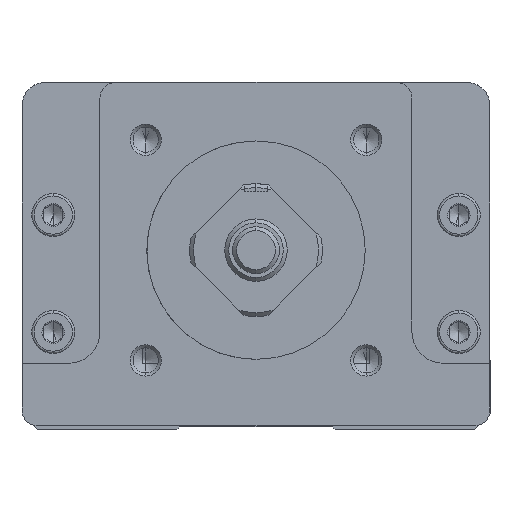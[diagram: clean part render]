
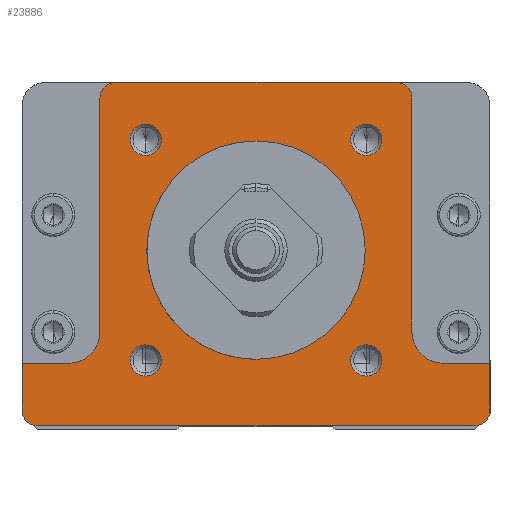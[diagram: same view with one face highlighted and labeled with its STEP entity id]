
A CAD part, left-side view. The second image highlights one B-rep face of the part: STEP entity #23886.
In plain terms, the highlighted planar face has unit normal (-1, 0, 0).
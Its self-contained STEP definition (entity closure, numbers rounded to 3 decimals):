
#22724=CARTESIAN_POINT('POINT1221',(-59.,-28.,-22.5));
#22725=VERTEX_POINT('VERTEX1221',#22724);
#22726=CARTESIAN_POINT('POINT1222',(-59.,28.,
   -22.5));
#22727=VERTEX_POINT('VERTEX1222',#22726);
#22728=CARTESIAN_POINT('POS1889',(-59.,28.,-22.5));
#22729=DIRECTION('DIR2733',(0.,1.,0.));
#22730=VECTOR('VEC1045',#22729,1.);
#22731=LINE('STRAIGHT1045',#22728,#22730);
#22732=EDGE_CURVE('EDGE1919',#22725,#22727,#22731,.T.);
#22755=CARTESIAN_POINT('POINT1223',(-59.,-14.142,
   12.142));
#22756=VERTEX_POINT('VERTEX1223',#22755);
#22763=CARTESIAN_POINT('POINT1224',(-59.,-14.142,
   16.142));
#22764=VERTEX_POINT('VERTEX1224',#22763);
#22765=CARTESIAN_POINT('POS1894',(-59.,-14.142,
   14.142));
#22766=DIRECTION('DIR2739',(1.,0.,0.));
#22767=DIRECTION('DIR2740',(0.,0.,-1.));
#22768=AXIS2_PLACEMENT_3D('AXIS846',#22765,#22766,#22767);
#22769=CIRCLE('ELLIPSE316',#22768,2.);
#22770=EDGE_CURVE('EDGE1923',#22764,#22756,#22769,.T.);
#22790=EDGE_CURVE('EDGE1925',#22756,#22764,#22769,.T.);
#22795=CARTESIAN_POINT('POINT1225',(-59.,14.142,
   12.142));
#22796=VERTEX_POINT('VERTEX1225',#22795);
#22803=CARTESIAN_POINT('POINT1226',(-59.,14.142,
   16.142));
#22804=VERTEX_POINT('VERTEX1226',#22803);
#22805=CARTESIAN_POINT('POS1898',(-59.,14.142,
   14.142));
#22806=DIRECTION('DIR2745',(1.,0.,0.));
#22807=DIRECTION('DIR2746',(0.,0.,-1.));
#22808=AXIS2_PLACEMENT_3D('AXIS848',#22805,#22806,#22807);
#22809=CIRCLE('ELLIPSE317',#22808,2.);
#22810=EDGE_CURVE('EDGE1927',#22804,#22796,#22809,.T.);
#22830=EDGE_CURVE('EDGE1929',#22796,#22804,#22809,.T.);
#22835=CARTESIAN_POINT('POINT1227',(-59.,-14.142,
   -16.142));
#22836=VERTEX_POINT('VERTEX1227',#22835);
#22843=CARTESIAN_POINT('POINT1228',(-59.,-14.142,
   -12.142));
#22844=VERTEX_POINT('VERTEX1228',#22843);
#22845=CARTESIAN_POINT('POS1902',(-59.,-14.142,
   -14.142));
#22846=DIRECTION('DIR2751',(1.,0.,0.));
#22847=DIRECTION('DIR2752',(0.,0.,-1.));
#22848=AXIS2_PLACEMENT_3D('AXIS850',#22845,#22846,#22847);
#22849=CIRCLE('ELLIPSE318',#22848,2.);
#22850=EDGE_CURVE('EDGE1931',#22844,#22836,#22849,.T.);
#22870=EDGE_CURVE('EDGE1933',#22836,#22844,#22849,.T.);
#22875=CARTESIAN_POINT('POINT1229',(-59.,14.142,
   -16.142));
#22876=VERTEX_POINT('VERTEX1229',#22875);
#22883=CARTESIAN_POINT('POINT1230',(-59.,14.142,
   -12.142));
#22884=VERTEX_POINT('VERTEX1230',#22883);
#22885=CARTESIAN_POINT('POS1906',(-59.,14.142,
   -14.142));
#22886=DIRECTION('DIR2757',(1.,0.,0.));
#22887=DIRECTION('DIR2758',(0.,0.,-1.));
#22888=AXIS2_PLACEMENT_3D('AXIS852',#22885,#22886,#22887);
#22889=CIRCLE('ELLIPSE319',#22888,2.);
#22890=EDGE_CURVE('EDGE1935',#22884,#22876,#22889,.T.);
#22910=EDGE_CURVE('EDGE1937',#22876,#22884,#22889,.T.);
#23001=CARTESIAN_POINT('POINT1241',(-59.,18.,21.5));
#23002=VERTEX_POINT('VERTEX1241',#23001);
#23009=CARTESIAN_POINT('POINT1242',(-59.,-18.,
   21.5));
#23010=VERTEX_POINT('VERTEX1242',#23009);
#23011=CARTESIAN_POINT('POS1920',(-59.,-18.,21.5));
#23012=DIRECTION('DIR2778',(0.,-1.,0.));
#23013=VECTOR('VEC1062',#23012,1.);
#23014=LINE('STRAIGHT1062',#23011,#23013);
#23015=EDGE_CURVE('EDGE1948',#23002,#23010,#23014,.T.);
#23033=CARTESIAN_POINT('POINT1244',(-59.,0.,-14.));
#23034=VERTEX_POINT('VERTEX1244',#23033);
#23041=CARTESIAN_POINT('POINT1245',(-59.,0.,
   14.));
#23042=VERTEX_POINT('VERTEX1245',#23041);
#23043=CARTESIAN_POINT('POS1924',(-59.,0.,0.));
#23044=DIRECTION('DIR2783',(1.,0.,0.));
#23045=DIRECTION('DIR2784',(0.,0.,-1.));
#23046=AXIS2_PLACEMENT_3D('AXIS860',#23043,#23044,#23045);
#23047=CIRCLE('ELLIPSE324',#23046,14.);
#23048=EDGE_CURVE('EDGE1951',#23042,#23034,#23047,.T.);
#23081=EDGE_CURVE('EDGE1956',#23034,#23042,#23047,.T.);
#23475=CARTESIAN_POINT('POINT1269',(-59.,20.,
   19.5));
#23476=VERTEX_POINT('VERTEX1269',#23475);
#23483=CARTESIAN_POINT('POS1973',(-59.,18.,
   19.5));
#23484=DIRECTION('DIR2865',(1.,0.,0.));
#23485=DIRECTION('DIR2866',(0.,0.,1.));
#23486=AXIS2_PLACEMENT_3D('AXIS893',#23483,#23484,#23485);
#23487=CIRCLE('ELLIPSE346',#23486,2.);
#23488=EDGE_CURVE('EDGE1993',#23476,#23002,#23487,.T.);
#23512=CARTESIAN_POINT('POINT1271',(-59.,30.,-20.5));
#23513=VERTEX_POINT('VERTEX1271',#23512);
#23514=CARTESIAN_POINT('POS1976',(-59.,28.,
   -20.5));
#23515=DIRECTION('DIR2871',(1.,0.,0.));
#23516=DIRECTION('DIR2872',(0.,1.,0.));
#23517=AXIS2_PLACEMENT_3D('AXIS896',#23514,#23515,#23516);
#23518=CIRCLE('ELLIPSE348',#23517,2.);
#23519=EDGE_CURVE('EDGE1995',#22727,#23513,#23518,.T.);
#23730=CARTESIAN_POINT('POINT1282',(-59.,-30.,
   -20.5));
#23731=VERTEX_POINT('VERTEX1282',#23730);
#23738=CARTESIAN_POINT('POS1997',(-59.,-28.,
   -20.5));
#23739=DIRECTION('DIR2903',(1.,0.,0.));
#23740=DIRECTION('DIR2904',(0.,0.,-1.));
#23741=AXIS2_PLACEMENT_3D('AXIS907',#23738,#23739,#23740);
#23742=CIRCLE('ELLIPSE355',#23741,2.);
#23743=EDGE_CURVE('EDGE2014',#23731,#22725,#23742,.T.);
#23783=ORIENTED_EDGE('COEDGE3972',*,*,#22910,.T.);
#23784=ORIENTED_EDGE('COEDGE3973',*,*,#22890,.T.);
#23785=EDGE_LOOP('NONE',(#23783,#23784));
#23786=FACE_BOUND('LOOP1',#23785,.T.);
#23787=ORIENTED_EDGE('COEDGE3974',*,*,#22870,.T.);
#23788=ORIENTED_EDGE('COEDGE3975',*,*,#22850,.T.);
#23789=EDGE_LOOP('NONE',(#23787,#23788));
#23790=FACE_BOUND('LOOP1',#23789,.T.);
#23791=ORIENTED_EDGE('COEDGE3976',*,*,#22830,.T.);
#23792=ORIENTED_EDGE('COEDGE3977',*,*,#22810,.T.);
#23793=EDGE_LOOP('NONE',(#23791,#23792));
#23794=FACE_BOUND('LOOP1',#23793,.T.);
#23795=ORIENTED_EDGE('COEDGE3978',*,*,#22790,.T.);
#23796=ORIENTED_EDGE('COEDGE3979',*,*,#22770,.T.);
#23797=EDGE_LOOP('NONE',(#23795,#23796));
#23798=FACE_BOUND('LOOP1',#23797,.T.);
#23799=ORIENTED_EDGE('COEDGE3980',*,*,#23081,.T.);
#23800=ORIENTED_EDGE('COEDGE3981',*,*,#23048,.T.);
#23801=EDGE_LOOP('NONE',(#23799,#23800));
#23802=FACE_BOUND('LOOP1',#23801,.T.);
#23803=ORIENTED_EDGE('COEDGE3982',*,*,#22732,.F.);
#23804=ORIENTED_EDGE('COEDGE3983',*,*,#23743,.F.);
#23805=CARTESIAN_POINT('POINT1284',(-59.,-30.,-14.5));
#23806=VERTEX_POINT('VERTEX1284',#23805);
#23807=CARTESIAN_POINT('POS2002',(-59.,-30.,-20.5));
#23808=DIRECTION('DIR2912',(0.,0.,-1.));
#23809=VECTOR('VEC1092',#23808,1.);
#23810=LINE('STRAIGHT1092',#23807,#23809);
#23811=EDGE_CURVE('EDGE2017',#23806,#23731,#23810,.T.);
#23812=ORIENTED_EDGE('COEDGE3984',*,*,#23811,.F.);
#23813=CARTESIAN_POINT('POINT1285',(-59.,-24.,-14.5));
#23814=VERTEX_POINT('VERTEX1285',#23813);
#23815=CARTESIAN_POINT('POS2003',(-59.,-30.,-14.5));
#23816=DIRECTION('DIR2913',(0.,-1.,0.));
#23817=VECTOR('VEC1093',#23816,1.);
#23818=LINE('STRAIGHT1093',#23815,#23817);
#23819=EDGE_CURVE('EDGE2018',#23814,#23806,#23818,.T.);
#23820=ORIENTED_EDGE('COEDGE3985',*,*,#23819,.F.);
#23821=CARTESIAN_POINT('POINT1286',(-59.,-20.,-10.5));
#23822=VERTEX_POINT('VERTEX1286',#23821);
#23823=CARTESIAN_POINT('POS2004',(-59.,-24.,-10.5));
#23824=DIRECTION('DIR2914',(-1.,0.,0.));
#23825=DIRECTION('DIR2915',(0.,0.,-1.));
#23826=AXIS2_PLACEMENT_3D('AXIS911',#23823,#23824,#23825);
#23827=CIRCLE('ELLIPSE357',#23826,4.);
#23828=EDGE_CURVE('EDGE2019',#23822,#23814,#23827,.T.);
#23829=ORIENTED_EDGE('COEDGE3986',*,*,#23828,.F.);
#23830=CARTESIAN_POINT('POINT1287',(-59.,-20.,19.5));
#23831=VERTEX_POINT('VERTEX1287',#23830);
#23832=CARTESIAN_POINT('POS2005',(-59.,-20.,-10.5));
#23833=DIRECTION('DIR2916',(0.,0.,-1.));
#23834=VECTOR('VEC1094',#23833,1.);
#23835=LINE('STRAIGHT1094',#23832,#23834);
#23836=EDGE_CURVE('EDGE2020',#23831,#23822,#23835,.T.);
#23837=ORIENTED_EDGE('COEDGE3987',*,*,#23836,.F.);
#23838=CARTESIAN_POINT('POS2006',(-59.,-18.,
   19.5));
#23839=DIRECTION('DIR2917',(1.,0.,0.));
#23840=DIRECTION('DIR2918',(0.,-1.,0.));
#23841=AXIS2_PLACEMENT_3D('AXIS912',#23838,#23839,#23840);
#23842=CIRCLE('ELLIPSE358',#23841,2.);
#23843=EDGE_CURVE('EDGE2021',#23010,#23831,#23842,.T.);
#23844=ORIENTED_EDGE('COEDGE3988',*,*,#23843,.F.);
#23845=ORIENTED_EDGE('COEDGE3989',*,*,#23015,.F.);
#23846=ORIENTED_EDGE('COEDGE3990',*,*,#23488,.F.);
#23847=CARTESIAN_POINT('POINT1288',(-59.,20.,-10.5));
#23848=VERTEX_POINT('VERTEX1288',#23847);
#23849=CARTESIAN_POINT('POS2007',(-59.,20.,19.5));
#23850=DIRECTION('DIR2919',(0.,0.,1.));
#23851=VECTOR('VEC1095',#23850,1.);
#23852=LINE('STRAIGHT1095',#23849,#23851);
#23853=EDGE_CURVE('EDGE2022',#23848,#23476,#23852,.T.);
#23854=ORIENTED_EDGE('COEDGE3991',*,*,#23853,.F.);
#23855=CARTESIAN_POINT('POINT1289',(-59.,24.,-14.5));
#23856=VERTEX_POINT('VERTEX1289',#23855);
#23857=CARTESIAN_POINT('POS2008',(-59.,24.,-10.5));
#23858=DIRECTION('DIR2920',(-1.,0.,0.));
#23859=DIRECTION('DIR2921',(0.,-1.,0.));
#23860=AXIS2_PLACEMENT_3D('AXIS913',#23857,#23858,#23859);
#23861=CIRCLE('ELLIPSE359',#23860,4.);
#23862=EDGE_CURVE('EDGE2023',#23856,#23848,#23861,.T.);
#23863=ORIENTED_EDGE('COEDGE3992',*,*,#23862,.F.);
#23864=CARTESIAN_POINT('POINT1290',(-59.,30.,-14.5));
#23865=VERTEX_POINT('VERTEX1290',#23864);
#23866=CARTESIAN_POINT('POS2009',(-59.,24.,-14.5));
#23867=DIRECTION('DIR2922',(0.,-1.,0.));
#23868=VECTOR('VEC1096',#23867,1.);
#23869=LINE('STRAIGHT1096',#23866,#23868);
#23870=EDGE_CURVE('EDGE2024',#23865,#23856,#23869,.T.);
#23871=ORIENTED_EDGE('COEDGE3993',*,*,#23870,.F.);
#23872=CARTESIAN_POINT('POS2010',(-59.,30.,-14.5));
#23873=DIRECTION('DIR2923',(0.,0.,1.));
#23874=VECTOR('VEC1097',#23873,1.);
#23875=LINE('STRAIGHT1097',#23872,#23874);
#23876=EDGE_CURVE('EDGE2025',#23513,#23865,#23875,.T.);
#23877=ORIENTED_EDGE('COEDGE3994',*,*,#23876,.F.);
#23878=ORIENTED_EDGE('COEDGE3995',*,*,#23519,.F.);
#23879=EDGE_LOOP('NONE',(#23803,#23804,#23812,#23820,#23829,#23837,
   #23844,#23845,#23846,#23854,#23863,#23871,#23877,#23878));
#23880=FACE_BOUND('LOOP1',#23879,.T.);
#23881=CARTESIAN_POINT('POS2011',(-59.,0.,
   -3.826));
#23882=DIRECTION('DIR2924',(-1.,0.,0.));
#23883=DIRECTION('DIR2925',(0.,1.,0.));
#23884=AXIS2_PLACEMENT_3D('AXIS914',#23881,#23882,#23883);
#23885=PLANE('PLANE348',#23884);
#23886=ADVANCED_FACE('FACE824',(#23786,#23790,#23794,#23798,#23802,
   #23880),#23885,.T.);
